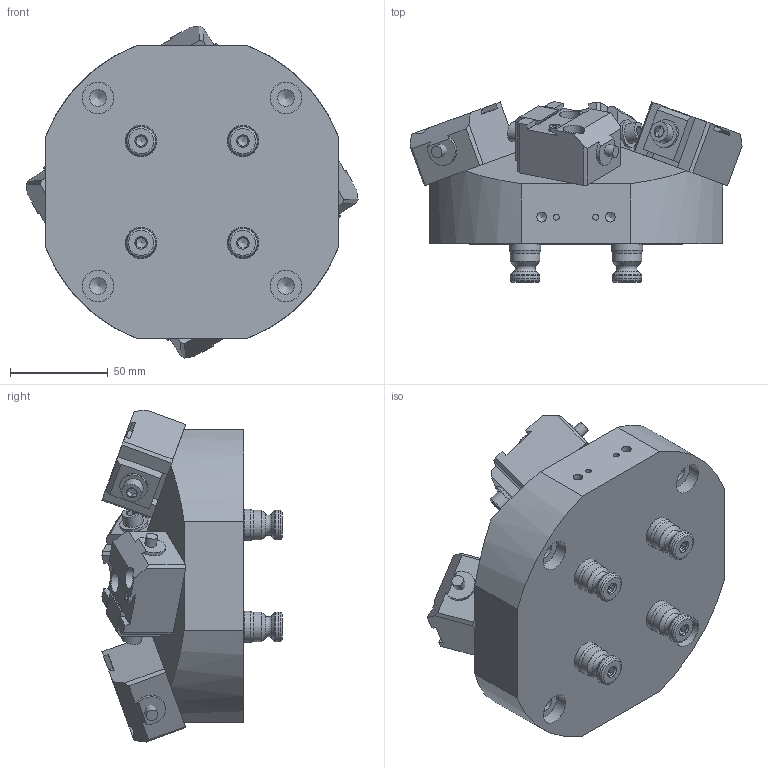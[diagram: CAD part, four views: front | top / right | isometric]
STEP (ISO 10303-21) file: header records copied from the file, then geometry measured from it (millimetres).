
FILE_DESCRIPTION (( 'STEP AP214' ), '1' );
FILE_NAME ('A52-P4DM25_WEBSITE.step', '2025-08-13T05:11:59', ( '' ), ( '' ), 'SwSTEP 2.0', 'SolidWorks 2025', '' );
FILE_SCHEMA (( 'AUTOMOTIVE_DESIGN' ));
Length unit declared in the file: inch
Products named in the file (12): A52-P4DM25_WEBSITE; D_DM25 Clamp-1_WEBSITE; D_M6-1.0MM X 55MM SHCS_WEBSITE; D_M6-1.0MM X 20MM SHCS_WEBSITE; D_LP6_WEBSITE_LP6; PS16F-1_WEBSITE_HARD TURN; PS16F_WEBSITE; M8X20.FPSS_WEBSITE_93245A145; D_AU-P4DM25-1_WEBSITE_ER COLLET FIXTURE PYRAMID; D_M6 Flat Washer_WEBSITE; D_DM25 Body_WEBSITE_MILL OP2; D_DM25_WEBSITE
Assembly tree (20 placements, depth 3):
  A52-P4DM25_WEBSITE
    D_AU-P4DM25-1_WEBSITE_ER COLLET FIXTURE PYRAMID
    D_DM25_WEBSITE  x4
      D_DM25 Body_WEBSITE_MILL OP2
      D_M6-1.0MM X 55MM SHCS_WEBSITE
      D_DM25 Clamp-1_WEBSITE
      D_M6 Flat Washer_WEBSITE
      D_LP6_WEBSITE_LP6
      D_M6-1.0MM X 20MM SHCS_WEBSITE
    PS16F_WEBSITE  x4
      PS16F-1_WEBSITE_HARD TURN
      M8X20.FPSS_WEBSITE_93245A145
Bounding box: 169.54 x 92.01 x 169.54 mm (x, y, z)
Volume: 918045.4 mm3; surface area: 147892.9 mm2
Topology: 45 solids, 45 shells, 966 faces, 2062 edges, 1300 vertices
Faces by surface type: plane 564, cylinder 210, cone 164, torus 28
Full cylindrical faces by diameter (mm): 3.03 x4, 3.3 x2, 4 x2, 4.2 x8, 5 x34, 5.25 x4, 6 x24, 6.025 x16, 6.365 x12, 6.4 x4, 6.477 x8, 6.756 x4, 6.8 x8, 8 x8, 8.5 x4, 10 x12, 10.795 x8, 11.991 x4, 12.017 x4, 12.69 x4, 12.738 x8, 14.4 x4, 15.202 x8, 15.997 x4, 16.02 x4
Entity records: 7910 total; most frequent: CARTESIAN_POINT 1374, DIRECTION 1333, ORIENTED_EDGE 930, AXIS2_PLACEMENT_3D 569, EDGE_LOOP 517, EDGE_CURVE 465, FACE_OUTER_BOUND 404, VERTEX_POINT 370
